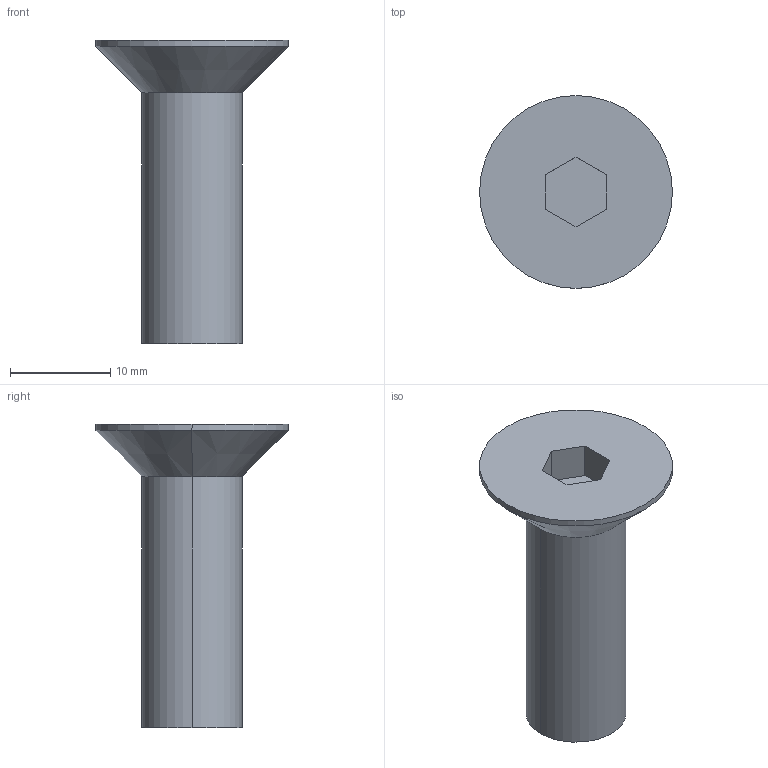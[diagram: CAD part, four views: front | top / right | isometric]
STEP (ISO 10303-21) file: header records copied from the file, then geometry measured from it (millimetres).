
FILE_DESCRIPTION (( 'STEP AP214' ), '1' );
FILE_NAME ('COUNTERSHUNK_HEAD_BOLT_M10(L=025).STEP', '2021-09-18T10:21:13', ( '' ), ( '' ), 'SwSTEP 2.0', 'SolidWorks 2018', '' );
FILE_SCHEMA (( 'AUTOMOTIVE_DESIGN' ));
Length unit declared in the file: millimetre
Products named in the file (1): COUNTERSHUNK_HEAD_BOLT_M10(L=025)
Bounding box: 19.22 x 19.22 x 30.22 mm (x, y, z)
Volume: 2826.7 mm3; surface area: 1565 mm2
Topology: 1 solids, 1 shells, 15 faces, 32 edges, 20 vertices
Faces by surface type: plane 9, cylinder 4, cone 2
Entity records: 436 total; most frequent: DIRECTION 72, CARTESIAN_POINT 68, ORIENTED_EDGE 64, EDGE_CURVE 32, VECTOR 24, AXIS2_PLACEMENT_3D 24, LINE 24, VERTEX_POINT 20
